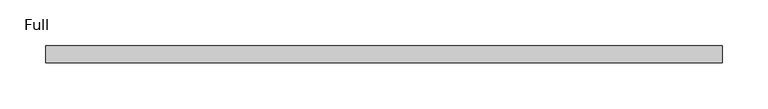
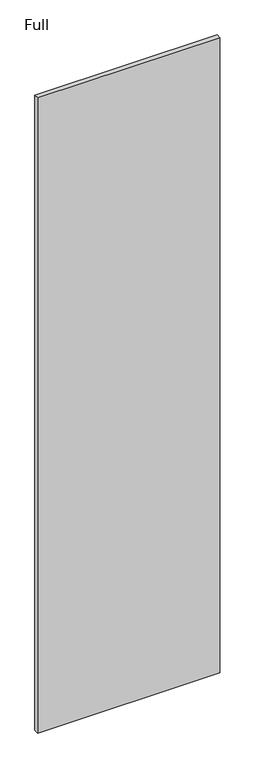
"""IFC4 building model written with IfcOpenShell, lengths in millimetres: proxy geometry, Panel-Fascia-Teknion-Altos-Standard : Full."""

from ifc_helpers import new_model, si_unit, frame, origin, place, context, project, spatial, polyline, outline, extrude, source, transform, mapped, element, save


def full_8a41353e(model_context):
    return source(origin(), model_context, "Body", "SweptSolid", [
        extrude(outline(polyline([(371.4253906, -9.525), (-371.4253906, -9.525), (-371.4253906, 9.525), (371.4253906, 9.525), (371.4253906, -9.525)])), frame((0.0, 0.0, 3.175), z_axis=(0.0, 0.0, 1.0), x_axis=(1.0, 0.0, 0.0)), (0.0, 0.0, 1.0), 2739.136),
    ])


if __name__ == "__main__":
    model = new_model("IFC4")
    model_context = context("Model", 3, world=origin())
    ifc_project = project(units=[si_unit("LENGTHUNIT", "METRE", prefix="MILLI")], contexts=[model_context])
    site = spatial("IfcSite", under=ifc_project)
    building = spatial("IfcBuilding", under=site)
    placement = place(None, origin())
    full_shape = full_8a41353e(model_context)
    element("IfcBuildingElementProxy", 1, Name="Panel-Fascia-Teknion-Altos-Standard : Full", ObjectType="Panel-Fascia-Teknion-Altos-Standard : Full", at=placement, inside=building, context=model_context, shape_type="MappedRepresentation", body=[
        mapped(full_shape, transform((0.0, 0.0, 0.0), x_axis=(1.0, 0.0, 0.0), y_axis=(0.0, 1.0, 0.0), z_axis=(0.0, 0.0, 1.0))),
    ])
    save(model, "model.ifc")
